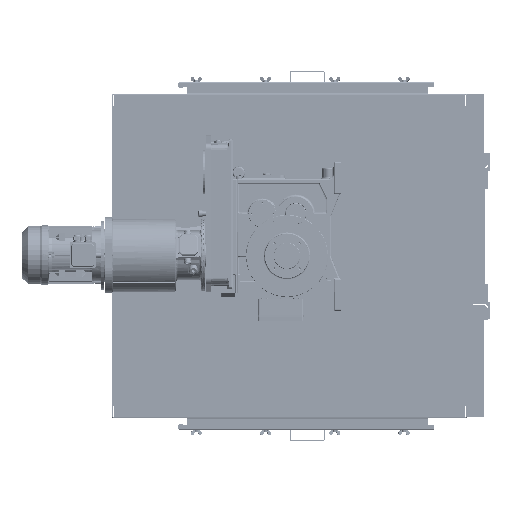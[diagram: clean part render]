
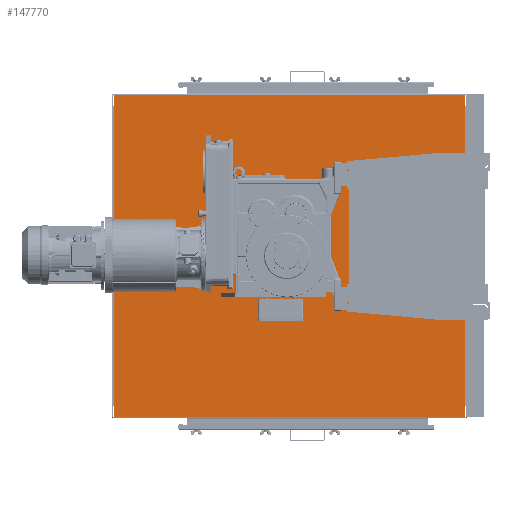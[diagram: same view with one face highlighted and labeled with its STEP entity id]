
A CAD part, left-side view. The second image highlights one B-rep face of the part: STEP entity #147770.
In plain terms, the highlighted planar face has unit normal (-1, 0, 0).
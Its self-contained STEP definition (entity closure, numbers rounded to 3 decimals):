
#6410=FACE_BOUND('',#27943,.T.);
#6411=FACE_BOUND('',#27944,.T.);
#6412=FACE_BOUND('',#27945,.T.);
#6413=FACE_BOUND('',#27946,.T.);
#6414=FACE_BOUND('',#27947,.T.);
#6415=FACE_BOUND('',#27948,.T.);
#6416=FACE_BOUND('',#27949,.T.);
#6417=FACE_BOUND('',#27950,.T.);
#6418=FACE_BOUND('',#27951,.T.);
#10611=PLANE('',#159746);
#18271=FACE_OUTER_BOUND('',#27942,.T.);
#27942=EDGE_LOOP('',(#127551,#127552,#127553,#127554));
#27943=EDGE_LOOP('',(#127555));
#27944=EDGE_LOOP('',(#127556));
#27945=EDGE_LOOP('',(#127557));
#27946=EDGE_LOOP('',(#127558));
#27947=EDGE_LOOP('',(#127559));
#27948=EDGE_LOOP('',(#127560));
#27949=EDGE_LOOP('',(#127561));
#27950=EDGE_LOOP('',(#127562));
#27951=EDGE_LOOP('',(#127563));
#39841=LINE('',#263476,#51967);
#39847=LINE('',#263488,#51973);
#39849=LINE('',#263491,#51975);
#39850=LINE('',#263492,#51976);
#51967=VECTOR('',#194370,1524.);
#51973=VECTOR('',#194384,1398.);
#51975=VECTOR('',#194388,1398.);
#51976=VECTOR('',#194389,1524.);
#57446=CIRCLE('',#159629,7.25);
#57447=CIRCLE('',#159631,7.25);
#57448=CIRCLE('',#159633,7.25);
#57449=CIRCLE('',#159635,7.25);
#57450=CIRCLE('',#159637,7.25);
#57451=CIRCLE('',#159639,7.25);
#57452=CIRCLE('',#159641,7.25);
#57453=CIRCLE('',#159643,7.25);
#57454=CIRCLE('',#159645,60.);
#69761=VERTEX_POINT('',#262658);
#69933=VERTEX_POINT('',#263114);
#69935=VERTEX_POINT('',#263125);
#69936=VERTEX_POINT('',#263128);
#69937=VERTEX_POINT('',#263131);
#69938=VERTEX_POINT('',#263134);
#69939=VERTEX_POINT('',#263137);
#69940=VERTEX_POINT('',#263140);
#69941=VERTEX_POINT('',#263143);
#69942=VERTEX_POINT('',#263146);
#69943=VERTEX_POINT('',#263149);
#70034=VERTEX_POINT('',#263474);
#70036=VERTEX_POINT('',#263487);
#89208=EDGE_CURVE('',#69935,#69935,#57446,.T.);
#89209=EDGE_CURVE('',#69936,#69936,#57447,.T.);
#89210=EDGE_CURVE('',#69937,#69937,#57448,.T.);
#89211=EDGE_CURVE('',#69938,#69938,#57449,.T.);
#89212=EDGE_CURVE('',#69939,#69939,#57450,.T.);
#89213=EDGE_CURVE('',#69940,#69940,#57451,.T.);
#89214=EDGE_CURVE('',#69941,#69941,#57452,.T.);
#89215=EDGE_CURVE('',#69942,#69942,#57453,.T.);
#89216=EDGE_CURVE('',#69943,#69943,#57454,.T.);
#89380=EDGE_CURVE('',#69761,#70034,#39841,.T.);
#89386=EDGE_CURVE('',#70036,#69761,#39847,.T.);
#89388=EDGE_CURVE('',#70034,#69933,#39849,.T.);
#89389=EDGE_CURVE('',#69933,#70036,#39850,.T.);
#127551=ORIENTED_EDGE('',*,*,#89380,.T.);
#127552=ORIENTED_EDGE('',*,*,#89388,.T.);
#127553=ORIENTED_EDGE('',*,*,#89389,.T.);
#127554=ORIENTED_EDGE('',*,*,#89386,.T.);
#127555=ORIENTED_EDGE('',*,*,#89208,.T.);
#127556=ORIENTED_EDGE('',*,*,#89209,.T.);
#127557=ORIENTED_EDGE('',*,*,#89210,.T.);
#127558=ORIENTED_EDGE('',*,*,#89211,.T.);
#127559=ORIENTED_EDGE('',*,*,#89212,.T.);
#127560=ORIENTED_EDGE('',*,*,#89213,.T.);
#127561=ORIENTED_EDGE('',*,*,#89214,.T.);
#127562=ORIENTED_EDGE('',*,*,#89215,.T.);
#127563=ORIENTED_EDGE('',*,*,#89216,.T.);
#147770=ADVANCED_FACE('',(#18271,#6410,#6411,#6412,#6413,#6414,#6415,#6416,
#6417,#6418),#10611,.F.);
#159629=AXIS2_PLACEMENT_3D('',#263126,#194006,#194007);
#159631=AXIS2_PLACEMENT_3D('',#263129,#194010,#194011);
#159633=AXIS2_PLACEMENT_3D('',#263132,#194014,#194015);
#159635=AXIS2_PLACEMENT_3D('',#263135,#194018,#194019);
#159637=AXIS2_PLACEMENT_3D('',#263138,#194022,#194023);
#159639=AXIS2_PLACEMENT_3D('',#263141,#194026,#194027);
#159641=AXIS2_PLACEMENT_3D('',#263144,#194030,#194031);
#159643=AXIS2_PLACEMENT_3D('',#263147,#194034,#194035);
#159645=AXIS2_PLACEMENT_3D('',#263150,#194038,#194039);
#159746=AXIS2_PLACEMENT_3D('',#263490,#194386,#194387);
#194006=DIRECTION('center_axis',(1.,0.,0.));
#194007=DIRECTION('ref_axis',(0.,-1.,0.));
#194010=DIRECTION('center_axis',(1.,0.,0.));
#194011=DIRECTION('ref_axis',(0.,-1.,0.));
#194014=DIRECTION('center_axis',(1.,0.,0.));
#194015=DIRECTION('ref_axis',(0.,-1.,0.));
#194018=DIRECTION('center_axis',(1.,0.,0.));
#194019=DIRECTION('ref_axis',(0.,-1.,0.));
#194022=DIRECTION('center_axis',(1.,0.,0.));
#194023=DIRECTION('ref_axis',(0.,-1.,0.));
#194026=DIRECTION('center_axis',(1.,0.,0.));
#194027=DIRECTION('ref_axis',(0.,-1.,0.));
#194030=DIRECTION('center_axis',(1.,0.,0.));
#194031=DIRECTION('ref_axis',(0.,-1.,0.));
#194034=DIRECTION('center_axis',(1.,0.,0.));
#194035=DIRECTION('ref_axis',(0.,-1.,0.));
#194038=DIRECTION('center_axis',(1.,0.,0.));
#194039=DIRECTION('ref_axis',(0.,-1.,0.));
#194370=DIRECTION('',(0.,-1.,0.));
#194384=DIRECTION('',(0.,0.,-1.));
#194386=DIRECTION('center_axis',(1.,0.,0.));
#194387=DIRECTION('ref_axis',(0.,-1.,0.));
#194388=DIRECTION('',(0.,0.,1.));
#194389=DIRECTION('',(0.,1.,0.));
#262658=CARTESIAN_POINT('',(261.319,691.268,-845.606));
#263114=CARTESIAN_POINT('',(261.319,-832.732,552.394));
#263125=CARTESIAN_POINT('',(261.319,-66.982,-261.106));
#263126=CARTESIAN_POINT('Origin',(261.319,-59.732,-261.106));
#263128=CARTESIAN_POINT('',(261.319,-181.482,-146.606));
#263129=CARTESIAN_POINT('Origin',(261.319,-174.232,-146.606));
#263131=CARTESIAN_POINT('',(261.319,-66.982,-32.106));
#263132=CARTESIAN_POINT('Origin',(261.319,-59.732,-32.106));
#263134=CARTESIAN_POINT('',(261.319,47.518,-146.606));
#263135=CARTESIAN_POINT('Origin',(261.319,54.768,-146.606));
#263137=CARTESIAN_POINT('',(261.319,13.982,-65.643));
#263138=CARTESIAN_POINT('Origin',(261.319,21.232,-65.643));
#263140=CARTESIAN_POINT('',(261.319,-147.946,-65.643));
#263141=CARTESIAN_POINT('Origin',(261.319,-140.696,-65.643));
#263143=CARTESIAN_POINT('',(261.319,-147.946,-227.57));
#263144=CARTESIAN_POINT('Origin',(261.319,-140.696,-227.57));
#263146=CARTESIAN_POINT('',(261.319,13.982,-227.57));
#263147=CARTESIAN_POINT('Origin',(261.319,21.232,-227.57));
#263149=CARTESIAN_POINT('',(261.319,-119.732,-146.606));
#263150=CARTESIAN_POINT('Origin',(261.319,-59.732,-146.606));
#263474=CARTESIAN_POINT('',(261.319,-832.732,-845.606));
#263476=CARTESIAN_POINT('',(261.319,310.268,-845.606));
#263487=CARTESIAN_POINT('',(261.319,691.268,552.394));
#263488=CARTESIAN_POINT('',(261.319,691.268,554.394));
#263490=CARTESIAN_POINT('Origin',(261.319,-70.732,-146.606));
#263491=CARTESIAN_POINT('',(261.319,-832.732,-847.606));
#263492=CARTESIAN_POINT('',(261.319,-451.732,552.394));
